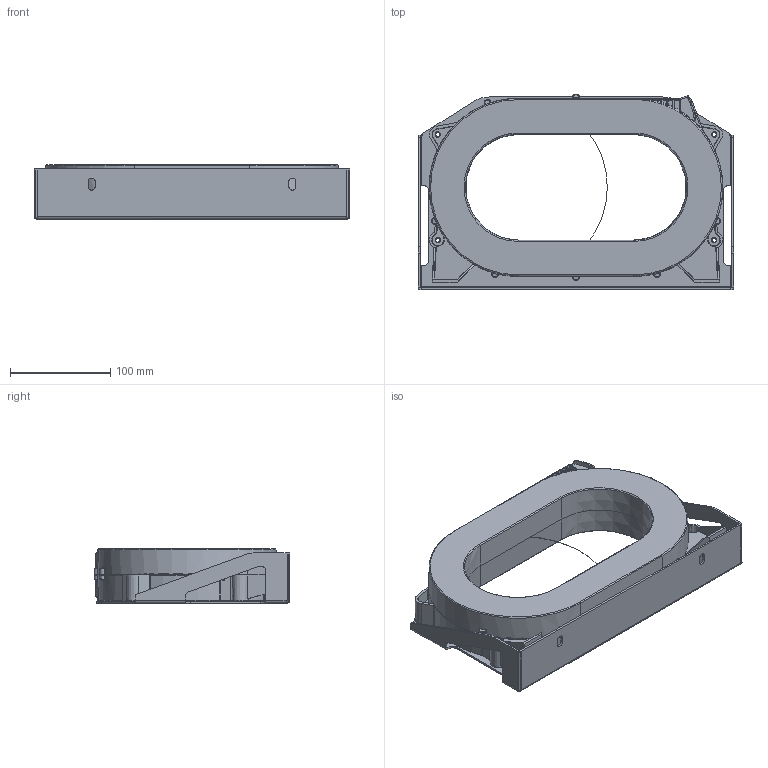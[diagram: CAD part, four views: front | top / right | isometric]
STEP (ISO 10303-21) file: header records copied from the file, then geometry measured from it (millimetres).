
FILE_DESCRIPTION((''),'2;1');
FILE_NAME('C_14657_105X220','2020-11-09T12:11:28',('esors'),(''),'CREO PARAMETRIC BY PTC INC, 2018260','CREO PARAMETRIC BY PTC INC, 2018260','');
FILE_SCHEMA(('AUTOMOTIVE_DESIGN { 1 0 10303 214 1 1 1 1 }'));
Products named in the file (1): C_14657_105X220
Bounding box: 314 x 194.7 x 54.2 mm (x, y, z)
Surface area: 355576.5 mm2
Topology: 1 solids, 8 shells, 1233 faces, 3389 edges, 2194 vertices
Faces by surface type: plane 542, cylinder 299, cone 182, bspline 101, torus 85, sphere 14, extrusion 10
Entity records: 60030 total; most frequent: CARTESIAN_POINT 17692, ORIENTED_EDGE 6694, DIRECTION 5933, PRESENTATION_STYLE_ASSIGNMENT 3378, STYLED_ITEM 3378, CURVE_STYLE 3373, EDGE_CURVE 3373, VERTEX_POINT 2191
